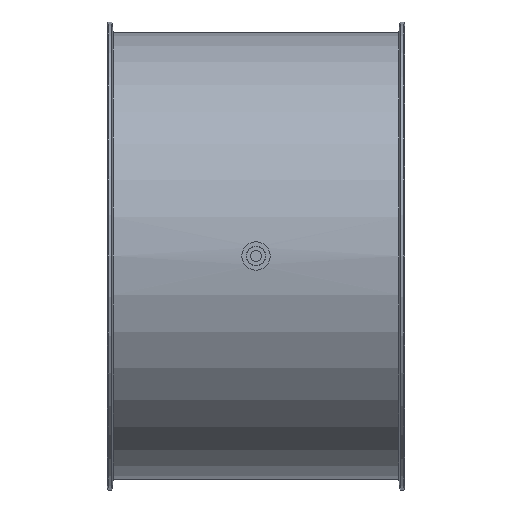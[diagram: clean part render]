
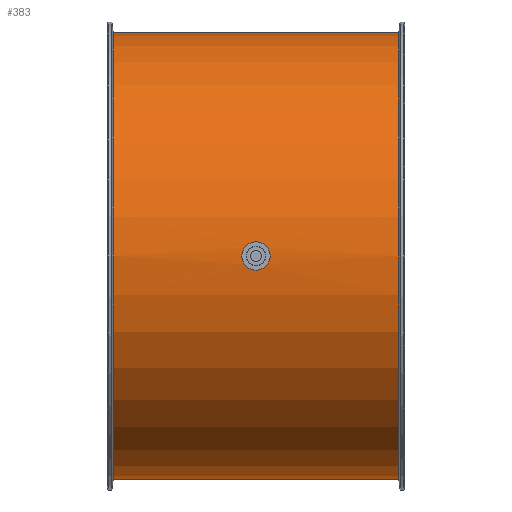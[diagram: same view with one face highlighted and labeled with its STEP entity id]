
A CAD part, front view. The second image highlights one B-rep face of the part: STEP entity #383.
In plain terms, the highlighted cylindrical face has radius 301 mm (diameter 602 mm), a full revolution.
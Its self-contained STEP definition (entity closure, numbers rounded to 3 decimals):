
#197=B_SPLINE_CURVE_WITH_KNOTS('',3,(#1749,#1750,#1751,#1752,#1753,#1754,
#1755,#1756,#1757,#1758,#1759,#1760,#1761,#1762,#1763,#1764,#1765,#1766),
 .UNSPECIFIED.,.T.,.F.,(2,2,2,2,2,2,2,2,2,2,2),(-0.125,0.,0.125,0.25,
0.375,0.5,0.625,0.75,0.875,1.,1.125),.UNSPECIFIED.);
#198=B_SPLINE_CURVE_WITH_KNOTS('',3,(#1768,#1769,#1770,#1771,#1772,#1773,
#1774,#1775,#1776,#1777,#1778,#1779,#1780,#1781,#1782,#1783,#1784,#1785),
 .UNSPECIFIED.,.T.,.F.,(2,2,2,2,2,2,2,2,2,2,2),(-0.125,0.,0.125,0.25,
0.375,0.5,0.625,0.75,0.875,1.,1.125),.UNSPECIFIED.);
#225=CYLINDRICAL_SURFACE('',#1229,301.);
#280=FACE_BOUND('',#541,.T.);
#281=FACE_BOUND('',#542,.T.);
#282=FACE_BOUND('',#543,.T.);
#283=FACE_BOUND('',#544,.T.);
#383=ADVANCED_FACE('',(#280,#281,#282,#283),#225,.T.);
#541=EDGE_LOOP('',(#685));
#542=EDGE_LOOP('',(#686));
#543=EDGE_LOOP('',(#687));
#544=EDGE_LOOP('',(#688));
#685=ORIENTED_EDGE('',*,*,#1014,.F.);
#686=ORIENTED_EDGE('',*,*,#1016,.F.);
#687=ORIENTED_EDGE('',*,*,#1017,.F.);
#688=ORIENTED_EDGE('',*,*,#1018,.F.);
#918=VERTEX_POINT('',#1742);
#920=VERTEX_POINT('',#1747);
#921=VERTEX_POINT('',#1767);
#922=VERTEX_POINT('',#1786);
#1014=EDGE_CURVE('',#918,#918,#1138,.T.);
#1016=EDGE_CURVE('',#920,#920,#1140,.T.);
#1017=EDGE_CURVE('',#921,#921,#197,.T.);
#1018=EDGE_CURVE('',#922,#922,#198,.T.);
#1138=CIRCLE('',#1224,301.);
#1140=CIRCLE('',#1227,301.);
#1224=AXIS2_PLACEMENT_3D('',#1741,#1403,#1404);
#1227=AXIS2_PLACEMENT_3D('',#1746,#1409,#1410);
#1229=AXIS2_PLACEMENT_3D('',#1787,#1413,#1414);
#1403=DIRECTION('',(1.,0.,0.));
#1404=DIRECTION('',(0.,0.,-1.));
#1409=DIRECTION('',(-1.,0.,0.));
#1410=DIRECTION('',(0.,0.,1.));
#1413=DIRECTION('',(1.,0.,0.));
#1414=DIRECTION('',(0.,0.,-1.));
#1741=CARTESIAN_POINT('',(192.133,-109.,125.));
#1742=CARTESIAN_POINT('',(192.133,-109.,-176.));
#1746=CARTESIAN_POINT('',(-192.133,-109.,125.));
#1747=CARTESIAN_POINT('',(-192.133,-109.,426.));
#1749=CARTESIAN_POINT('',(3.436,191.719,112.));
#1750=CARTESIAN_POINT('',(-3.436,191.719,112.));
#1751=CARTESIAN_POINT('',(-6.795,191.786,113.41));
#1752=CARTESIAN_POINT('',(-11.591,191.933,118.207));
#1753=CARTESIAN_POINT('',(-12.998,192.,121.601));
#1754=CARTESIAN_POINT('',(-13.002,192.,128.385));
#1755=CARTESIAN_POINT('',(-11.623,191.934,131.76));
#1756=CARTESIAN_POINT('',(-6.771,191.786,136.616));
#1757=CARTESIAN_POINT('',(-3.398,191.719,137.999));
#1758=CARTESIAN_POINT('',(3.389,191.719,138.001));
#1759=CARTESIAN_POINT('',(6.784,191.786,136.596));
#1760=CARTESIAN_POINT('',(11.583,191.933,131.806));
#1761=CARTESIAN_POINT('',(12.997,192.,128.443));
#1762=CARTESIAN_POINT('',(13.003,192.,121.583));
#1763=CARTESIAN_POINT('',(11.598,191.933,118.217));
#1764=CARTESIAN_POINT('',(6.802,191.786,113.413));
#1765=CARTESIAN_POINT('',(3.436,191.719,112.));
#1766=CARTESIAN_POINT('',(-3.436,191.719,112.));
#1767=CARTESIAN_POINT('',(0.,191.719,112.));
#1768=CARTESIAN_POINT('',(-3.436,-409.719,112.));
#1769=CARTESIAN_POINT('',(3.436,-409.719,112.));
#1770=CARTESIAN_POINT('',(6.795,-409.786,113.41));
#1771=CARTESIAN_POINT('',(11.591,-409.933,118.207));
#1772=CARTESIAN_POINT('',(12.998,-410.,121.601));
#1773=CARTESIAN_POINT('',(13.002,-410.,128.385));
#1774=CARTESIAN_POINT('',(11.623,-409.934,131.76));
#1775=CARTESIAN_POINT('',(6.771,-409.786,136.616));
#1776=CARTESIAN_POINT('',(3.398,-409.719,137.999));
#1777=CARTESIAN_POINT('',(-3.389,-409.719,138.001));
#1778=CARTESIAN_POINT('',(-6.784,-409.786,136.596));
#1779=CARTESIAN_POINT('',(-11.583,-409.933,131.806));
#1780=CARTESIAN_POINT('',(-12.997,-410.,128.443));
#1781=CARTESIAN_POINT('',(-13.003,-410.,121.583));
#1782=CARTESIAN_POINT('',(-11.598,-409.933,118.217));
#1783=CARTESIAN_POINT('',(-6.802,-409.786,113.413));
#1784=CARTESIAN_POINT('',(-3.436,-409.719,112.));
#1785=CARTESIAN_POINT('',(3.436,-409.719,112.));
#1786=CARTESIAN_POINT('',(0.,-409.719,112.));
#1787=CARTESIAN_POINT('',(-200.,-109.,125.));
